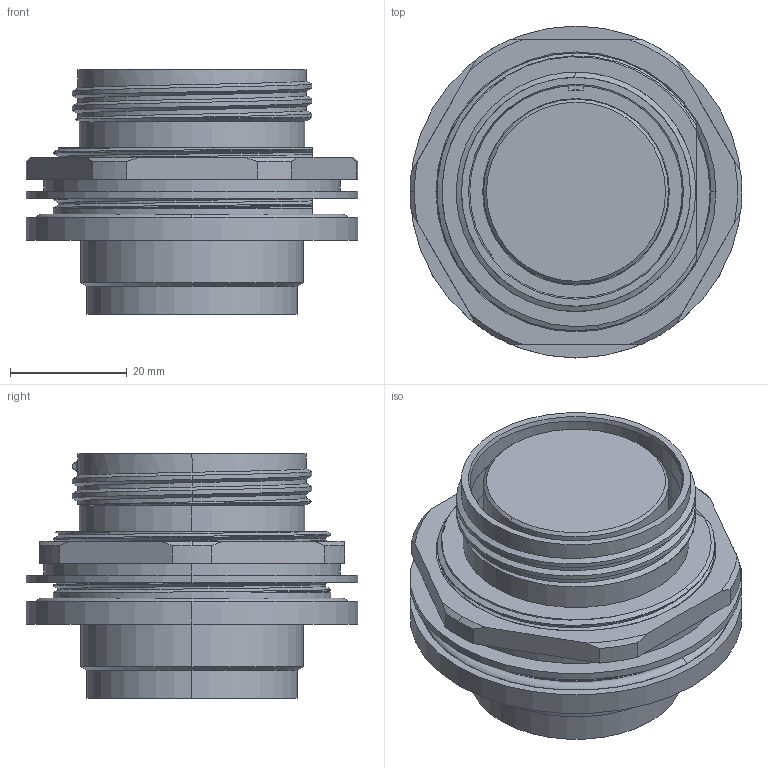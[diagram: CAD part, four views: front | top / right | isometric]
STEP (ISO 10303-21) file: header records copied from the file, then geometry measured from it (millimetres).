
FILE_DESCRIPTION (( 'STEP AP214' ), '1' );
FILE_NAME ('QLINK-RJTX-25XX-S00.STEP', '2025-09-30T21:48:15', ( '' ), ( '' ), 'SwSTEP 2.0', 'SolidWorks 2024', '' );
FILE_SCHEMA (( 'AUTOMOTIVE_DESIGN' ));
Length unit declared in the file: inch
Products named in the file (1): QLINK-RJTX-25XX-S00
Bounding box: 56.9 x 56.9 x 41.91 mm (x, y, z)
Volume: 54699.2 mm3; surface area: 22505.1 mm2
Topology: 3 solids, 3 shells, 177 faces, 457 edges, 295 vertices
Faces by surface type: cylinder 74, plane 34, cone 28, bspline 27, torus 14
Entity records: 12986 total; most frequent: CARTESIAN_POINT 8954, ORIENTED_EDGE 914, DIRECTION 762, EDGE_CURVE 457, AXIS2_PLACEMENT_3D 313, VERTEX_POINT 295, EDGE_LOOP 194, FACE_OUTER_BOUND 177
